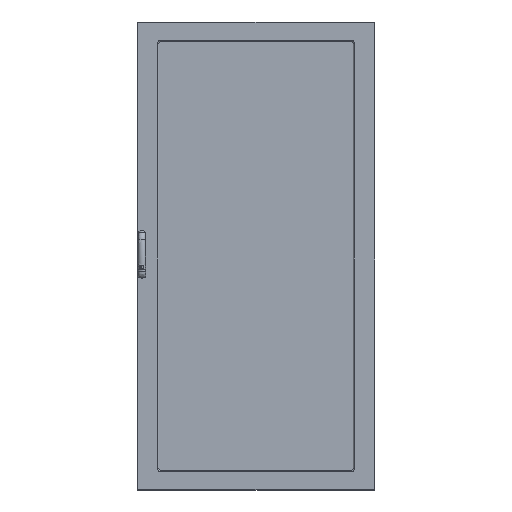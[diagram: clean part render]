
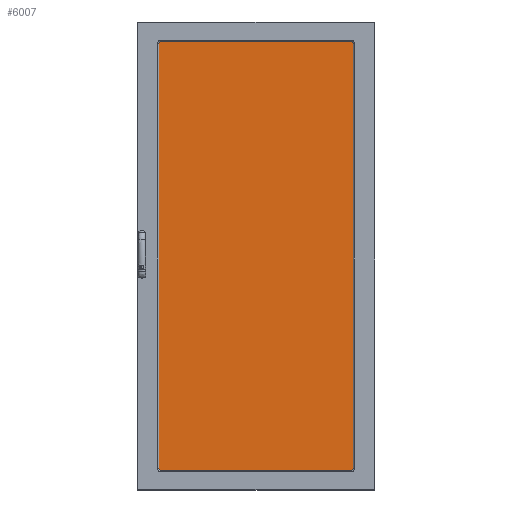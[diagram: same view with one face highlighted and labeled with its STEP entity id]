
A CAD part, top view. The second image highlights one B-rep face of the part: STEP entity #6007.
In plain terms, the highlighted planar face has unit normal (0, 0, 1).
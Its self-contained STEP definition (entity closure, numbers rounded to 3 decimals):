
#484 = VERTEX_POINT ( 'NONE', #8048 ) ;
#593 = VERTEX_POINT ( 'NONE', #20448 ) ;
#2383 = DIRECTION ( 'NONE',  ( 0., 0., 1. ) ) ;
#2459 = CARTESIAN_POINT ( 'NONE',  ( 1831., -846., 4. ) ) ;
#4024 = DIRECTION ( 'NONE',  ( 1., 0., 0. ) ) ;
#5270 = DIRECTION ( 'NONE',  ( 1., 0., 0. ) ) ;
#5926 = EDGE_CURVE ( 'NONE', #593, #13902, #33974, .T. ) ;
#6007 = ADVANCED_FACE ( 'NONE', ( #32159 ), #18977, .T. ) ;
#7045 = VECTOR ( 'NONE', #4024, 1000. ) ;
#7167 = DIRECTION ( 'NONE',  ( -1., 0., 0. ) ) ;
#7506 = CARTESIAN_POINT ( 'NONE',  ( 0., 0., 4. ) ) ;
#7762 = ORIENTED_EDGE ( 'NONE', *, *, #15680, .T. ) ;
#8048 = CARTESIAN_POINT ( 'NONE',  ( 0., 0., 4. ) ) ;
#9448 = CARTESIAN_POINT ( 'NONE',  ( 0., -846., 4. ) ) ;
#10966 = EDGE_LOOP ( 'NONE', ( #16130, #21150, #7762, #32346 ) ) ;
#11567 = DIRECTION ( 'NONE',  ( 0., 1., 0. ) ) ;
#12382 = CARTESIAN_POINT ( 'NONE',  ( 0., 0., 4. ) ) ;
#13902 = VERTEX_POINT ( 'NONE', #2459 ) ;
#15680 = EDGE_CURVE ( 'NONE', #13902, #26165, #33044, .T. ) ;
#16130 = ORIENTED_EDGE ( 'NONE', *, *, #21588, .T. ) ;
#18675 = CARTESIAN_POINT ( 'NONE',  ( 1831., 0., 4. ) ) ;
#18977 = PLANE ( 'NONE',  #31809 ) ;
#20448 = CARTESIAN_POINT ( 'NONE',  ( 0., -846., 4. ) ) ;
#21150 = ORIENTED_EDGE ( 'NONE', *, *, #5926, .T. ) ;
#21588 = EDGE_CURVE ( 'NONE', #484, #593, #23545, .T. ) ;
#21624 = VECTOR ( 'NONE', #23717, 1000. ) ;
#22889 = EDGE_CURVE ( 'NONE', #26165, #484, #26799, .T. ) ;
#23545 = LINE ( 'NONE', #12382, #21624 ) ;
#23717 = DIRECTION ( 'NONE',  ( 0., -1., 0. ) ) ;
#24268 = VECTOR ( 'NONE', #11567, 1000. ) ;
#26165 = VERTEX_POINT ( 'NONE', #18675 ) ;
#26799 = LINE ( 'NONE', #7506, #30689 ) ;
#27269 = CARTESIAN_POINT ( 'NONE',  ( 0., -846., 4. ) ) ;
#27980 = CARTESIAN_POINT ( 'NONE',  ( 1831., 0., 4. ) ) ;
#30689 = VECTOR ( 'NONE', #7167, 1000. ) ;
#31809 = AXIS2_PLACEMENT_3D ( 'NONE', #27269, #2383, #5270 ) ;
#32159 = FACE_OUTER_BOUND ( 'NONE', #10966, .T. ) ;
#32346 = ORIENTED_EDGE ( 'NONE', *, *, #22889, .T. ) ;
#33044 = LINE ( 'NONE', #27980, #24268 ) ;
#33974 = LINE ( 'NONE', #9448, #7045 ) ;
